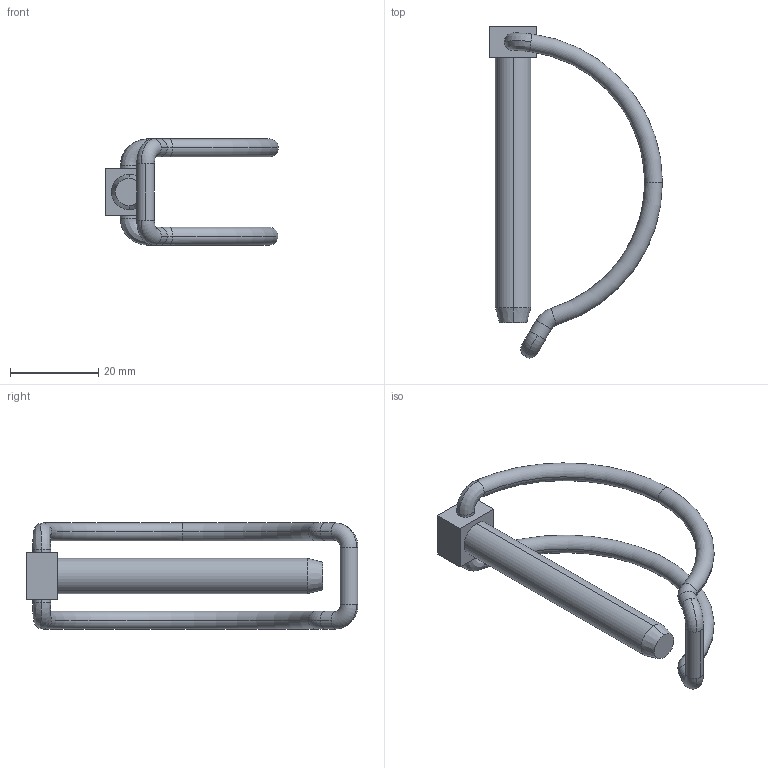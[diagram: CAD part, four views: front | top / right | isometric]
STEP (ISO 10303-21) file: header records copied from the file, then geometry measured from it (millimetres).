
FILE_DESCRIPTION (( 'STEP AP203' ), '1' );
FILE_NAME ('33320.W0083.step', '2025-02-04T13:41:01', ( '' ), ( '' ), 'SwSTEP 2.0', 'SolidWorks 2019', '' );
FILE_SCHEMA (( 'CONFIG_CONTROL_DESIGN' ));
Length unit declared in the file: millimetre
Products named in the file (3): Part5_33320.W0083; part1_33320.W0083; 33320.W0083
Assembly tree (2 placements, depth 2):
  33320.W0083
    part1_33320.W0083
    Part5_33320.W0083
Bounding box: 39.14 x 75.13 x 24 mm (x, y, z)
Volume: 6538.9 mm3; surface area: 5028.7 mm2
Topology: 2 solids, 2 shells, 43 faces, 98 edges, 60 vertices
Faces by surface type: cylinder 14, torus 14, plane 9, bspline 4, cone 2
Entity records: 1827 total; most frequent: CARTESIAN_POINT 518, DIRECTION 248, ORIENTED_EDGE 196, AXIS2_PLACEMENT_3D 110, EDGE_CURVE 98, CIRCLE 66, VERTEX_POINT 60, EDGE_LOOP 46
